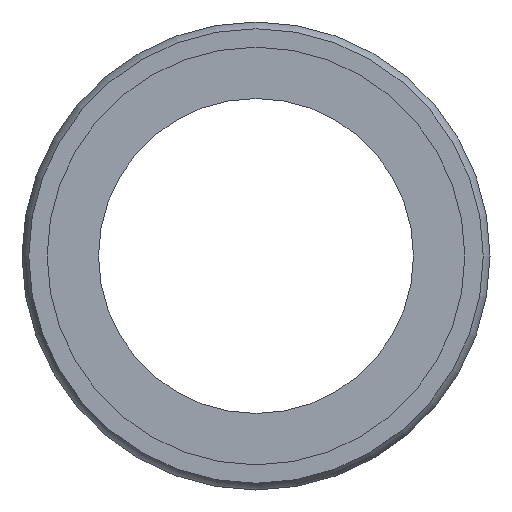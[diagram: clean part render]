
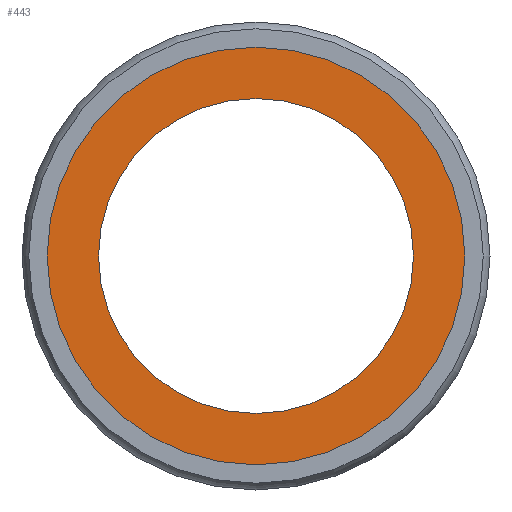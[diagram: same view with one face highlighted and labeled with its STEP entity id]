
A CAD part, left-side view. The second image highlights one B-rep face of the part: STEP entity #443.
In plain terms, the highlighted planar face has unit normal (-1, 0, 0).
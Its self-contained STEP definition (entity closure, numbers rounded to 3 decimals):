
#416=CARTESIAN_POINT('',(0.1,0.0,20.35));
#417=DIRECTION('',(-1.0,0.0,0.0));
#418=DIRECTION('',(0.0,0.0,1.0));
#419=AXIS2_PLACEMENT_3D('',#416,#417,#418);
#420=PLANE('',#419);
#421=CARTESIAN_POINT('',(0.1,0.0,23.2));
#422=VERTEX_POINT('',#421);
#423=CARTESIAN_POINT('',(0.1,0.0,0.));
#424=DIRECTION('',(1.0,0.0,0.0));
#425=DIRECTION('',(0.0,0.0,1.0));
#426=AXIS2_PLACEMENT_3D('',#423,#424,#425);
#427=CIRCLE('',#426,23.2);
#428=EDGE_CURVE('',#422,#422,#427,.T.);
#429=ORIENTED_EDGE('',*,*,#428,.F.);
#430=EDGE_LOOP('',(#429));
#431=FACE_OUTER_BOUND('',#430,.T.);
#432=CARTESIAN_POINT('',(0.1,0.0,17.5));
#433=VERTEX_POINT('',#432);
#434=CARTESIAN_POINT('',(0.1,0.0,0.));
#435=DIRECTION('',(-1.0,0.0,0.0));
#436=DIRECTION('',(0.0,0.0,1.0));
#437=AXIS2_PLACEMENT_3D('',#434,#435,#436);
#438=CIRCLE('',#437,17.5);
#439=EDGE_CURVE('',#433,#433,#438,.T.);
#440=ORIENTED_EDGE('',*,*,#439,.F.);
#441=EDGE_LOOP('',(#440));
#442=FACE_BOUND('',#441,.T.);
#443=ADVANCED_FACE('',(#431,#442),#420,.T.);
